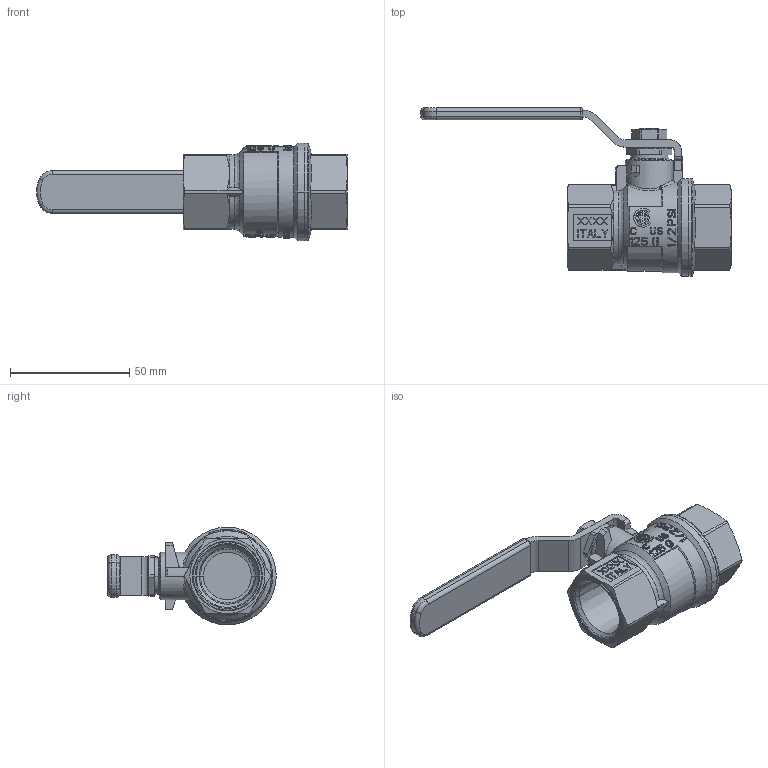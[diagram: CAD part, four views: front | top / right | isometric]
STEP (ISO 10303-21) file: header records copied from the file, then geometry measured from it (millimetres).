
FILE_DESCRIPTION((''),'2;1');
FILE_NAME('T100NE_34_ASM','2020-08-26T16:31:52',('sergio.dandrea'),(''),'CREO PARAMETRIC BY PTC INC, 2019471','CREO PARAMETRIC BY PTC INC, 2019471','');
FILE_SCHEMA(('CONFIG_CONTROL_DESIGN'));
Products named in the file (13): 88089; 88090; 87166; OR_107_8X1_5; ASTA_50_3-4_OR_ASM; 87167; 87135; GRIP_PVC_95; LEVA_95_CON_GRIP_ASM; 01034; SEDE_PTFE_F20; 87164; T100NE_34_ASM
Assembly tree (14 placements, depth 3):
  T100NE_34_ASM
    88089
    88090
    ASTA_50_3-4_OR_ASM
      87166
      OR_107_8X1_5  x2
    87167
    LEVA_95_CON_GRIP_ASM
      87135
      GRIP_PVC_95
    01034
    SEDE_PTFE_F20  x2
    87164
Bounding box: 130.5 x 70.7 x 41 mm (x, y, z)
Volume: 52367.9 mm3; surface area: 44989.2 mm2
Topology: 12 solids, 22 shells, 1970 faces, 5408 edges, 3546 vertices
Faces by surface type: plane 940, bspline 598, cylinder 196, cone 116, extrusion 52, torus 50, revolution 16, sphere 2
Entity records: 82142 total; most frequent: CARTESIAN_POINT 37931, ORIENTED_EDGE 10668, DIRECTION 6498, EDGE_CURVE 5360, VERTEX_POINT 3522, VECTOR 2436, LINE 2384, B_SPLINE_CURVE_WITH_KNOTS 2341
